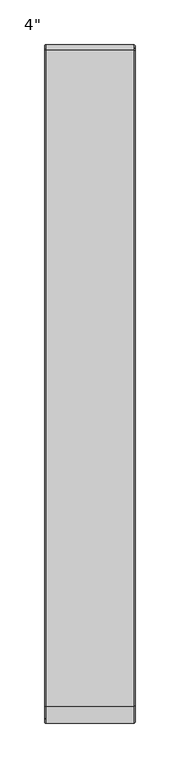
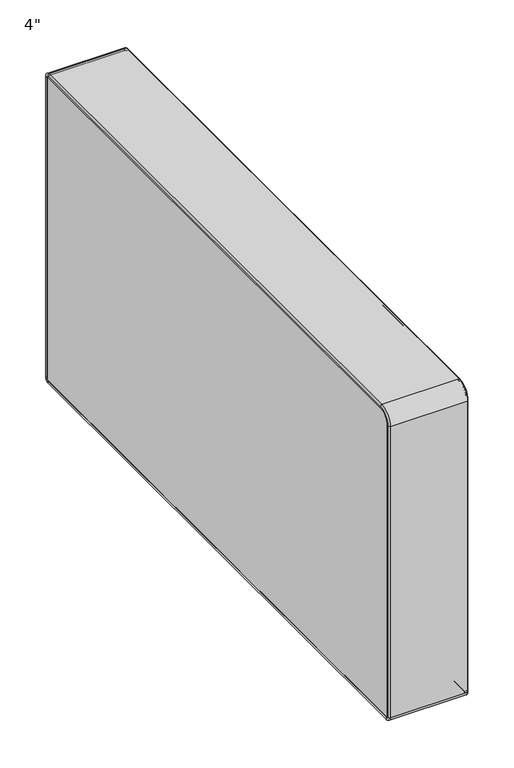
"""IFC4 building model written with IfcOpenShell, lengths in millimetres: furniture geometry."""

from ifc_helpers import new_model, si_unit, point, frame, origin, place, context, project, spatial, polyline, circle_curve, ellipse_curve, trimmed, source, transform, mapped, element, save
from ifc_brep_helpers import plane_surface, cylinder_surface, revolved_surface, advanced_brep


def furniture_c38c4944(model_context):
    return source(origin(), model_context, "Body", "AdvancedBrep", [
        advanced_brep(
        [(-49.2125, 374.65, 749.3), (-49.2125, 374.65, 746.125), (-49.2125, -361.95, 746.125), (-49.2125, -361.95, 749.3), (49.2125, 374.65, 749.3), (49.2125, -361.95, 749.3), (49.2125, 374.65, 746.125), (49.2125, -361.95, 746.125), (-49.2125, -381.0, 730.25), (-49.2125, -377.825, 730.25), (-49.2125, -377.825, 336.6753315), (-49.2125, -381.0, 336.6753315), (49.2125, -381.0, 730.25), (49.2125, -381.0, 336.6753315), (49.2125, -377.825, 730.25), (49.2125, -377.825, 336.6753315), (-49.2125, -374.65, 330.3253315), (-49.2125, -374.65, 333.5003315), (-49.2125, 374.65, 333.5003315), (-49.2125, 374.65, 330.3253315), (49.2125, -374.65, 330.3253315), (49.2125, 374.65, 330.3253315), (49.2125, -374.65, 333.5003315), (49.2125, 374.65, 333.5003315), (-49.2125, 381.0, 336.6753315), (-49.2125, 377.825, 336.6753315), (-49.2125, 377.825, 742.95), (-49.2125, 381.0, 742.95), (49.2125, 381.0, 336.6753315), (49.2125, 381.0, 742.95), (49.2125, 377.825, 336.6753315), (49.2125, 377.825, 742.95)],
        [
            (0, 1, circle_curve(frame((-49.2125, 374.65, 747.7125), z_axis=(0.0, -1.0, 0.0), x_axis=(0.0, 0.0, -1.0)), 1.5875)),
            (1, 2),
            (2, 3, circle_curve(frame((-49.2125, -361.95, 747.7125), z_axis=(0.0, 1.0, 0.0), x_axis=(0.0, 0.0, -1.0)), 1.5875)),
            (3, 0),
            (4, 0),
            (3, 5),
            (5, 4),
            (6, 4, circle_curve(frame((49.2125, 374.65, 747.7125), z_axis=(0.0, -1.0, 0.0), x_axis=(0.0, 0.0, -1.0)), 1.5875)),
            (5, 7, circle_curve(frame((49.2125, -361.95, 747.7125), z_axis=(0.0, 1.0, 0.0), x_axis=(0.0, 0.0, -1.0)), 1.5875)),
            (7, 6),
            (8, 9, circle_curve(frame((-49.2125, -379.4125, 730.25), z_axis=(0.0, 0.0, -1.0), x_axis=(0.0, 1.0, 0.0)), 1.5875)),
            (9, 10),
            (10, 11, circle_curve(frame((-49.2125, -379.4125, 336.6753315), z_axis=(0.0, 0.0, 1.0), x_axis=(0.0, 1.0, 0.0)), 1.5875)),
            (11, 8),
            (12, 8),
            (11, 13),
            (13, 12),
            (14, 12, circle_curve(frame((49.2125, -379.4125, 730.25), z_axis=(0.0, 0.0, -1.0), x_axis=(0.0, 1.0, 0.0)), 1.5875)),
            (13, 15, circle_curve(frame((49.2125, -379.4125, 336.6753315), z_axis=(0.0, 0.0, 1.0), x_axis=(0.0, 1.0, 0.0)), 1.5875)),
            (15, 14),
            (16, 17, circle_curve(frame((-49.2125, -374.65, 331.9128315), z_axis=(0.0, 1.0, 0.0), x_axis=(0.0, 0.0, 1.0)), 1.5875)),
            (17, 18),
            (18, 19, circle_curve(frame((-49.2125, 374.65, 331.9128315), z_axis=(0.0, -1.0, 0.0), x_axis=(0.0, 0.0, 1.0)), 1.5875)),
            (19, 16),
            (20, 16),
            (19, 21),
            (21, 20),
            (22, 20, circle_curve(frame((49.2125, -374.65, 331.9128315), z_axis=(0.0, 1.0, 0.0), x_axis=(0.0, 0.0, 1.0)), 1.5875)),
            (21, 23, circle_curve(frame((49.2125, 374.65, 331.9128315), z_axis=(0.0, -1.0, 0.0), x_axis=(0.0, 0.0, 1.0)), 1.5875)),
            (23, 22),
            (24, 25, circle_curve(frame((-49.2125, 379.4125, 336.6753315), z_axis=(0.0, 0.0, 1.0), x_axis=(0.0, -1.0, 0.0)), 1.5875)),
            (25, 26),
            (26, 27, circle_curve(frame((-49.2125, 379.4125, 742.95), z_axis=(0.0, 0.0, -1.0), x_axis=(0.0, -1.0, 0.0)), 1.5875)),
            (27, 24),
            (28, 24),
            (27, 29),
            (29, 28),
            (30, 28, circle_curve(frame((49.2125, 379.4125, 336.6753315), z_axis=(0.0, 0.0, 1.0), x_axis=(0.0, -1.0, 0.0)), 1.5875)),
            (29, 31, circle_curve(frame((49.2125, 379.4125, 742.95), z_axis=(0.0, 0.0, -1.0), x_axis=(0.0, -1.0, 0.0)), 1.5875)),
            (31, 30),
            (0, 27, circle_curve(frame((-49.2125, 374.65, 742.95), z_axis=(-1.0, 0.0, 0.0), x_axis=(0.0, 1.0, 0.0)), 6.35)),
            (26, 1, circle_curve(frame((-49.2125, 374.65, 742.95), z_axis=(1.0, 0.0, 0.0), x_axis=(0.0, 1.0, 0.0)), 3.175)),
            (4, 29, circle_curve(frame((49.2125, 374.65, 742.95), z_axis=(-1.0, 0.0, 0.0), x_axis=(0.0, 1.0, 0.0)), 6.35)),
            (6, 31, circle_curve(frame((49.2125, 374.65, 742.95), z_axis=(-1.0, 0.0, 0.0), x_axis=(0.0, 1.0, 0.0)), 3.175)),
            (8, 3, circle_curve(frame((-49.2125, -361.95, 730.25), z_axis=(-1.0, 0.0, 0.0), x_axis=(0.0, 0.0, 1.0)), 19.05)),
            (2, 9, circle_curve(frame((-49.2125, -361.95, 730.25), z_axis=(1.0, 0.0, 0.0), x_axis=(0.0, 0.0, 1.0)), 15.875)),
            (12, 5, circle_curve(frame((49.2125, -361.95, 730.25), z_axis=(-1.0, 0.0, 0.0), x_axis=(0.0, 0.0, 1.0)), 19.05)),
            (14, 7, circle_curve(frame((49.2125, -361.95, 730.25), z_axis=(-1.0, 0.0, 0.0), x_axis=(0.0, 0.0, 1.0)), 15.875)),
            (16, 11, circle_curve(frame((-49.2125, -374.65, 336.6753315), z_axis=(-1.0, 0.0, 0.0), x_axis=(0.0, -1.0, 0.0)), 6.35)),
            (10, 17, circle_curve(frame((-49.2125, -374.65, 336.6753315), z_axis=(1.0, 0.0, 0.0), x_axis=(0.0, -1.0, 0.0)), 3.175)),
            (20, 13, circle_curve(frame((49.2125, -374.65, 336.6753315), z_axis=(-1.0, 0.0, 0.0), x_axis=(0.0, -1.0, 0.0)), 6.35)),
            (22, 15, circle_curve(frame((49.2125, -374.65, 336.6753315), z_axis=(-1.0, 0.0, 0.0), x_axis=(0.0, -1.0, 0.0)), 3.175)),
            (24, 19, circle_curve(frame((-49.2125, 374.65, 336.6753315), z_axis=(-1.0, 0.0, 0.0), x_axis=(0.0, 0.0, -1.0)), 6.35)),
            (18, 25, circle_curve(frame((-49.2125, 374.65, 336.6753315), z_axis=(1.0, 0.0, 0.0), x_axis=(0.0, 0.0, -1.0)), 3.175)),
            (28, 21, circle_curve(frame((49.2125, 374.65, 336.6753315), z_axis=(-1.0, 0.0, 0.0), x_axis=(0.0, 0.0, -1.0)), 6.35)),
            (30, 23, circle_curve(frame((49.2125, 374.65, 336.6753315), z_axis=(-1.0, 0.0, 0.0), x_axis=(0.0, 0.0, -1.0)), 3.175)),
            (2, 7),
            (14, 9),
            (15, 10),
            (22, 17),
            (23, 18),
            (30, 25),
            (31, 26),
            (6, 1),
        ],
        [
            cylinder_surface(frame((-49.2125, 374.65, 747.7125), z_axis=(0.0, 1.0, 0.0), x_axis=(0.0, 0.0, -1.0)), 1.5875),
            plane_surface(frame((-49.2125, 374.65, 749.3), z_axis=(0.0, 0.0, 1.0), x_axis=(0.0, -1.0, 0.0))),
            cylinder_surface(frame((49.2125, 374.65, 747.7125), z_axis=(0.0, 1.0, 0.0), x_axis=(0.0, 0.0, -1.0)), 1.5875),
            cylinder_surface(frame((-49.2125, -379.4125, 730.25), z_axis=(0.0, 0.0, 1.0), x_axis=(0.0, 1.0, 0.0)), 1.5875),
            plane_surface(frame((-49.2125, -381.0, 730.25), z_axis=(0.0, -1.0, 0.0), x_axis=(0.0, 0.0, -1.0))),
            cylinder_surface(frame((49.2125, -379.4125, 730.25), z_axis=(0.0, 0.0, 1.0), x_axis=(0.0, 1.0, 0.0)), 1.5875),
            cylinder_surface(frame((-49.2125, -374.65, 331.9128315), z_axis=(0.0, -1.0, 0.0), x_axis=(0.0, 0.0, 1.0)), 1.5875),
            plane_surface(frame((-49.2125, -374.65, 330.3253315), z_axis=(0.0, 0.0, -1.0), x_axis=(0.0, 1.0, 0.0))),
            cylinder_surface(frame((49.2125, -374.65, 331.9128315), z_axis=(0.0, -1.0, 0.0), x_axis=(0.0, 0.0, 1.0)), 1.5875),
            cylinder_surface(frame((-49.2125, 379.4125, 336.6753315), z_axis=(0.0, 0.0, -1.0), x_axis=(0.0, -1.0, 0.0)), 1.5875),
            plane_surface(frame((-49.2125, 381.0, 336.6753315), z_axis=(0.0, 1.0, 0.0), x_axis=(0.0, 0.0, 1.0))),
            cylinder_surface(frame((49.2125, 379.4125, 336.6753315), z_axis=(0.0, 0.0, -1.0), x_axis=(0.0, -1.0, 0.0)), 1.5875),
            revolved_surface(trimmed(ellipse_curve(frame((-49.2125, 379.4125, 742.95), z_axis=(0.0, 0.0, -1.0), x_axis=(0.0, -1.0, 0.0)), 1.5875, 1.5875), [point((-49.2125, 377.825, 742.95))], [point((-49.2125, 381.0, 742.95))], True, "CARTESIAN"), (0.0, 374.65, 742.95), (1.0, 0.0, 0.0)),
            cylinder_surface(frame((0.0, 374.65, 742.95), z_axis=(1.0, 0.0, 0.0), x_axis=(0.0, 1.0, 0.0)), 6.35),
            revolved_surface(trimmed(ellipse_curve(frame((49.2125, 379.4125, 742.95), z_axis=(0.0, 0.0, -1.0), x_axis=(0.0, -1.0, 0.0)), 1.5875, 1.5875), [point((49.2125, 381.0, 742.95))], [point((49.2125, 377.825, 742.95))], True, "CARTESIAN"), (0.0, 374.65, 742.95), (1.0, 0.0, 0.0)),
            revolved_surface(trimmed(ellipse_curve(frame((-49.2125, -361.95, 747.7125), z_axis=(0.0, 1.0, 0.0), x_axis=(0.0, 0.0, -1.0)), 1.5875, 1.5875), [point((-49.2125, -361.95, 746.125))], [point((-49.2125, -361.95, 749.3))], True, "CARTESIAN"), (0.0, -361.95, 730.25), (1.0, 0.0, 0.0)),
            cylinder_surface(frame((0.0, -361.95, 730.25), z_axis=(1.0, 0.0, 0.0), x_axis=(0.0, 0.0, 1.0)), 19.05),
            revolved_surface(trimmed(ellipse_curve(frame((49.2125, -361.95, 747.7125), z_axis=(0.0, 1.0, 0.0), x_axis=(0.0, 0.0, -1.0)), 1.5875, 1.5875), [point((49.2125, -361.95, 749.3))], [point((49.2125, -361.95, 746.125))], True, "CARTESIAN"), (0.0, -361.95, 730.25), (1.0, 0.0, 0.0)),
            revolved_surface(trimmed(ellipse_curve(frame((-49.2125, -379.4125, 336.6753315), z_axis=(0.0, 0.0, 1.0), x_axis=(0.0, 1.0, 0.0)), 1.5875, 1.5875), [point((-49.2125, -377.825, 336.6753315))], [point((-49.2125, -381.0, 336.6753315))], True, "CARTESIAN"), (0.0, -374.65, 336.6753315), (1.0, 0.0, 0.0)),
            cylinder_surface(frame((0.0, -374.65, 336.6753315), z_axis=(1.0, 0.0, 0.0), x_axis=(0.0, -1.0, 0.0)), 6.35),
            revolved_surface(trimmed(ellipse_curve(frame((49.2125, -379.4125, 336.6753315), z_axis=(0.0, 0.0, 1.0), x_axis=(0.0, 1.0, 0.0)), 1.5875, 1.5875), [point((49.2125, -381.0, 336.6753315))], [point((49.2125, -377.825, 336.6753315))], True, "CARTESIAN"), (0.0, -374.65, 336.6753315), (1.0, 0.0, 0.0)),
            revolved_surface(trimmed(ellipse_curve(frame((-49.2125, 374.65, 331.9128315), z_axis=(0.0, -1.0, 0.0), x_axis=(0.0, 0.0, 1.0)), 1.5875, 1.5875), [point((-49.2125, 374.65, 333.5003315))], [point((-49.2125, 374.65, 330.3253315))], True, "CARTESIAN"), (0.0, 374.65, 336.6753315), (1.0, 0.0, 0.0)),
            cylinder_surface(frame((0.0, 374.65, 336.6753315), z_axis=(1.0, 0.0, 0.0), x_axis=(0.0, 0.0, -1.0)), 6.35),
            revolved_surface(trimmed(ellipse_curve(frame((49.2125, 374.65, 331.9128315), z_axis=(0.0, -1.0, 0.0), x_axis=(0.0, 0.0, 1.0)), 1.5875, 1.5875), [point((49.2125, 374.65, 330.3253315))], [point((49.2125, 374.65, 333.5003315))], True, "CARTESIAN"), (0.0, 374.65, 336.6753315), (1.0, 0.0, 0.0)),
            revolved_surface(polyline([(49.2125, -361.95, 746.125), (-49.2125, -361.95, 746.125)]), (0.0, -361.95, 730.25), (1.0, 0.0, 0.0)),
            plane_surface(frame((49.2125, -377.825, 730.25), z_axis=(0.0, 1.0, 0.0), x_axis=(0.0, 0.0, -1.0))),
            revolved_surface(polyline([(49.2125, -377.825, 336.6753315), (-49.2125, -377.825, 336.6753315)]), (0.0, -374.65, 336.6753315), (1.0, 0.0, 0.0)),
            plane_surface(frame((49.2125, -374.65, 333.5003315), z_axis=(0.0, 0.0, 1.0), x_axis=(0.0, 1.0, 0.0))),
            revolved_surface(polyline([(49.2125, 374.65, 333.5003315), (-49.2125, 374.65, 333.5003315)]), (0.0, 374.65, 336.6753315), (1.0, 0.0, 0.0)),
            plane_surface(frame((49.2125, 377.825, 336.6753315), z_axis=(0.0, -1.0, 0.0), x_axis=(0.0, 0.0, 1.0))),
            revolved_surface(polyline([(49.2125, 377.825, 742.95), (-49.2125, 377.825, 742.95)]), (0.0, 374.65, 742.95), (1.0, 0.0, 0.0)),
            plane_surface(frame((49.2125, 374.65, 746.125), z_axis=(0.0, 0.0, -1.0), x_axis=(0.0, -1.0, 0.0))),
        ],
        [
            (0, [[1, 2, 3, 4]]),
            (1, [[5, -4, 6, 7]]),
            (2, [[8, -7, 9, 10]]),
            (3, [[11, 12, 13, 14]]),
            (4, [[15, -14, 16, 17]]),
            (5, [[18, -17, 19, 20]]),
            (6, [[21, 22, 23, 24]]),
            (7, [[25, -24, 26, 27]]),
            (8, [[28, -27, 29, 30]]),
            (9, [[31, 32, 33, 34]]),
            (10, [[35, -34, 36, 37]]),
            (11, [[38, -37, 39, 40]]),
            (12, [[41, -33, 42, -1]]),
            (13, [[43, -36, -41, -5]]),
            (14, [[44, -39, -43, -8]]),
            (15, [[45, -3, 46, -11]]),
            (16, [[47, -6, -45, -15]]),
            (17, [[48, -9, -47, -18]]),
            (18, [[49, -13, 50, -21]]),
            (19, [[51, -16, -49, -25]]),
            (20, [[52, -19, -51, -28]]),
            (21, [[53, -23, 54, -31]]),
            (22, [[55, -26, -53, -35]]),
            (23, [[56, -29, -55, -38]]),
            (24, [[-46, 57, -48, 58]]),
            (25, [[-58, -20, 59, -12]]),
            (26, [[-50, -59, -52, 60]]),
            (27, [[-60, -30, 61, -22]]),
            (28, [[-54, -61, -56, 62]]),
            (29, [[-62, -40, 63, -32]]),
            (30, [[-42, -63, -44, 64]]),
            (31, [[-64, -10, -57, -2]]),
        ],
    ),
        advanced_brep(
        [(50.8, 374.65, 744.5375), (50.8, -361.95, 744.5375), (50.8, -376.2375, 730.25), (50.8, -376.2375, 336.6753315), (50.8, -374.65, 335.0878315), (50.8, 374.65, 335.0878315), (50.8, 376.2375, 336.6753315), (50.8, 376.2375, 742.95), (-50.8, -361.95, 744.5375), (-50.8, 374.65, 744.5375), (-50.8, 376.2375, 742.95), (-50.8, 376.2375, 336.6753315), (-50.8, 374.65, 335.0878315), (-50.8, -374.65, 335.0878315), (-50.8, -376.2375, 336.6753315), (-50.8, -376.2375, 730.25), (49.2125, 374.65, 746.125), (49.2125, -361.95, 746.125), (-49.2125, 374.65, 746.125), (-49.2125, -361.95, 746.125), (49.2125, -377.825, 730.25), (49.2125, -377.825, 336.6753315), (-49.2125, -377.825, 730.25), (-49.2125, -377.825, 336.6753315), (49.2125, -374.65, 333.5003315), (49.2125, 374.65, 333.5003315), (-49.2125, -374.65, 333.5003315), (-49.2125, 374.65, 333.5003315), (49.2125, 377.825, 336.6753315), (49.2125, 377.825, 742.95), (-49.2125, 377.825, 336.6753315), (-49.2125, 377.825, 742.95)],
        [
            (0, 1),
            (1, 2, circle_curve(frame((50.8, -361.95, 730.25), z_axis=(1.0, 0.0, 0.0), x_axis=(0.0, 0.0, 1.0)), 14.2875)),
            (2, 3),
            (3, 4, circle_curve(frame((50.8, -374.65, 336.6753315), z_axis=(1.0, 0.0, 0.0), x_axis=(0.0, -1.0, 0.0)), 1.5875)),
            (4, 5),
            (5, 6, circle_curve(frame((50.8, 374.65, 336.6753315), z_axis=(1.0, 0.0, 0.0), x_axis=(0.0, 0.0, -1.0)), 1.5875)),
            (6, 7),
            (7, 0, circle_curve(frame((50.8, 374.65, 742.95), z_axis=(1.0, 0.0, 0.0), x_axis=(0.0, 1.0, 0.0)), 1.5875)),
            (8, 9),
            (9, 10, circle_curve(frame((-50.8, 374.65, 742.95), z_axis=(-1.0, 0.0, 0.0), x_axis=(0.0, 1.0, 0.0)), 1.5875)),
            (10, 11),
            (11, 12, circle_curve(frame((-50.8, 374.65, 336.6753315), z_axis=(-1.0, 0.0, 0.0), x_axis=(0.0, 0.0, -1.0)), 1.5875)),
            (12, 13),
            (13, 14, circle_curve(frame((-50.8, -374.65, 336.6753315), z_axis=(-1.0, 0.0, 0.0), x_axis=(0.0, -1.0, 0.0)), 1.5875)),
            (14, 15),
            (15, 8, circle_curve(frame((-50.8, -361.95, 730.25), z_axis=(-1.0, 0.0, 0.0), x_axis=(0.0, 0.0, 1.0)), 14.2875)),
            (0, 16, circle_curve(frame((49.2125, 374.65, 744.5375), z_axis=(0.0, -1.0, 0.0), x_axis=(0.0, 0.0, -1.0)), 1.5875)),
            (16, 17),
            (17, 1, circle_curve(frame((49.2125, -361.95, 744.5375), z_axis=(0.0, 1.0, 0.0), x_axis=(0.0, 0.0, -1.0)), 1.5875)),
            (18, 9, circle_curve(frame((-49.2125, 374.65, 744.5375), z_axis=(0.0, -1.0, 0.0), x_axis=(0.0, 0.0, -1.0)), 1.5875)),
            (8, 19, circle_curve(frame((-49.2125, -361.95, 744.5375), z_axis=(0.0, 1.0, 0.0), x_axis=(0.0, 0.0, -1.0)), 1.5875)),
            (19, 18),
            (2, 20, circle_curve(frame((49.2125, -376.2375, 730.25), z_axis=(0.0, 0.0, -1.0), x_axis=(0.0, 1.0, 0.0)), 1.5875)),
            (20, 21),
            (21, 3, circle_curve(frame((49.2125, -376.2375, 336.6753315), z_axis=(0.0, 0.0, 1.0), x_axis=(0.0, 1.0, 0.0)), 1.5875)),
            (22, 15, circle_curve(frame((-49.2125, -376.2375, 730.25), z_axis=(0.0, 0.0, -1.0), x_axis=(0.0, 1.0, 0.0)), 1.5875)),
            (14, 23, circle_curve(frame((-49.2125, -376.2375, 336.6753315), z_axis=(0.0, 0.0, 1.0), x_axis=(0.0, 1.0, 0.0)), 1.5875)),
            (23, 22),
            (4, 24, circle_curve(frame((49.2125, -374.65, 335.0878315), z_axis=(0.0, 1.0, 0.0), x_axis=(0.0, 0.0, 1.0)), 1.5875)),
            (24, 25),
            (25, 5, circle_curve(frame((49.2125, 374.65, 335.0878315), z_axis=(0.0, -1.0, 0.0), x_axis=(0.0, 0.0, 1.0)), 1.5875)),
            (26, 13, circle_curve(frame((-49.2125, -374.65, 335.0878315), z_axis=(0.0, 1.0, 0.0), x_axis=(0.0, 0.0, 1.0)), 1.5875)),
            (12, 27, circle_curve(frame((-49.2125, 374.65, 335.0878315), z_axis=(0.0, -1.0, 0.0), x_axis=(0.0, 0.0, 1.0)), 1.5875)),
            (27, 26),
            (6, 28, circle_curve(frame((49.2125, 376.2375, 336.6753315), z_axis=(0.0, 0.0, 1.0), x_axis=(0.0, -1.0, 0.0)), 1.5875)),
            (28, 29),
            (29, 7, circle_curve(frame((49.2125, 376.2375, 742.95), z_axis=(0.0, 0.0, -1.0), x_axis=(0.0, -1.0, 0.0)), 1.5875)),
            (30, 11, circle_curve(frame((-49.2125, 376.2375, 336.6753315), z_axis=(0.0, 0.0, 1.0), x_axis=(0.0, -1.0, 0.0)), 1.5875)),
            (10, 31, circle_curve(frame((-49.2125, 376.2375, 742.95), z_axis=(0.0, 0.0, -1.0), x_axis=(0.0, -1.0, 0.0)), 1.5875)),
            (31, 30),
            (29, 16, circle_curve(frame((49.2125, 374.65, 742.95), z_axis=(1.0, 0.0, 0.0), x_axis=(0.0, 1.0, 0.0)), 3.175)),
            (18, 31, circle_curve(frame((-49.2125, 374.65, 742.95), z_axis=(-1.0, 0.0, 0.0), x_axis=(0.0, 1.0, 0.0)), 3.175)),
            (17, 20, circle_curve(frame((49.2125, -361.95, 730.25), z_axis=(1.0, 0.0, 0.0), x_axis=(0.0, 0.0, 1.0)), 15.875)),
            (22, 19, circle_curve(frame((-49.2125, -361.95, 730.25), z_axis=(-1.0, 0.0, 0.0), x_axis=(0.0, 0.0, 1.0)), 15.875)),
            (21, 24, circle_curve(frame((49.2125, -374.65, 336.6753315), z_axis=(1.0, 0.0, 0.0), x_axis=(0.0, -1.0, 0.0)), 3.175)),
            (26, 23, circle_curve(frame((-49.2125, -374.65, 336.6753315), z_axis=(-1.0, 0.0, 0.0), x_axis=(0.0, -1.0, 0.0)), 3.175)),
            (25, 28, circle_curve(frame((49.2125, 374.65, 336.6753315), z_axis=(1.0, 0.0, 0.0), x_axis=(0.0, 0.0, -1.0)), 3.175)),
            (30, 27, circle_curve(frame((-49.2125, 374.65, 336.6753315), z_axis=(-1.0, 0.0, 0.0), x_axis=(0.0, 0.0, -1.0)), 3.175)),
            (17, 19),
            (22, 20),
            (23, 21),
            (26, 24),
            (27, 25),
            (30, 28),
            (31, 29),
            (18, 16),
        ],
        [
            plane_surface(frame((50.8, -348.45625, 730.25), z_axis=(1.0, 0.0, 0.0), x_axis=(0.0, 0.0, 1.0))),
            plane_surface(frame((-50.8, -348.45625, 730.25), z_axis=(-1.0, 0.0, 0.0), x_axis=(0.0, 0.0, -1.0))),
            cylinder_surface(frame((49.2125, 374.65, 744.5375), z_axis=(0.0, 1.0, 0.0), x_axis=(0.0, 0.0, -1.0)), 1.5875),
            cylinder_surface(frame((-49.2125, 374.65, 744.5375), z_axis=(0.0, 1.0, 0.0), x_axis=(0.0, 0.0, -1.0)), 1.5875),
            cylinder_surface(frame((49.2125, -376.2375, 730.25), z_axis=(0.0, 0.0, 1.0), x_axis=(0.0, 1.0, 0.0)), 1.5875),
            cylinder_surface(frame((-49.2125, -376.2375, 730.25), z_axis=(0.0, 0.0, 1.0), x_axis=(0.0, 1.0, 0.0)), 1.5875),
            cylinder_surface(frame((49.2125, -374.65, 335.0878315), z_axis=(0.0, -1.0, 0.0), x_axis=(0.0, 0.0, 1.0)), 1.5875),
            cylinder_surface(frame((-49.2125, -374.65, 335.0878315), z_axis=(0.0, -1.0, 0.0), x_axis=(0.0, 0.0, 1.0)), 1.5875),
            cylinder_surface(frame((49.2125, 376.2375, 336.6753315), z_axis=(0.0, 0.0, -1.0), x_axis=(0.0, -1.0, 0.0)), 1.5875),
            cylinder_surface(frame((-49.2125, 376.2375, 336.6753315), z_axis=(0.0, 0.0, -1.0), x_axis=(0.0, -1.0, 0.0)), 1.5875),
            revolved_surface(trimmed(ellipse_curve(frame((49.2125, 376.2375, 742.95), z_axis=(0.0, 0.0, -1.0), x_axis=(0.0, -1.0, 0.0)), 1.5875, 1.5875), [point((49.2125, 377.825, 742.95))], [point((50.8, 376.2375, 742.95))], True, "CARTESIAN"), (0.0, 374.65, 742.95), (1.0, 0.0, 0.0)),
            revolved_surface(trimmed(ellipse_curve(frame((-49.2125, 376.2375, 742.95), z_axis=(0.0, 0.0, -1.0), x_axis=(0.0, -1.0, 0.0)), 1.5875, 1.5875), [point((-50.8, 376.2375, 742.95))], [point((-49.2125, 377.825, 742.95))], True, "CARTESIAN"), (0.0, 374.65, 742.95), (1.0, 0.0, 0.0)),
            revolved_surface(trimmed(ellipse_curve(frame((49.2125, -361.95, 744.5375), z_axis=(0.0, 1.0, 0.0), x_axis=(0.0, 0.0, -1.0)), 1.5875, 1.5875), [point((49.2125, -361.95, 746.125))], [point((50.8, -361.95, 744.5375))], True, "CARTESIAN"), (0.0, -361.95, 730.25), (1.0, 0.0, 0.0)),
            revolved_surface(trimmed(ellipse_curve(frame((-49.2125, -361.95, 744.5375), z_axis=(0.0, 1.0, 0.0), x_axis=(0.0, 0.0, -1.0)), 1.5875, 1.5875), [point((-50.8, -361.95, 744.5375))], [point((-49.2125, -361.95, 746.125))], True, "CARTESIAN"), (0.0, -361.95, 730.25), (1.0, 0.0, 0.0)),
            revolved_surface(trimmed(ellipse_curve(frame((49.2125, -376.2375, 336.6753315), z_axis=(0.0, 0.0, 1.0), x_axis=(0.0, 1.0, 0.0)), 1.5875, 1.5875), [point((49.2125, -377.825, 336.6753315))], [point((50.8, -376.2375, 336.6753315))], True, "CARTESIAN"), (0.0, -374.65, 336.6753315), (1.0, 0.0, 0.0)),
            revolved_surface(trimmed(ellipse_curve(frame((-49.2125, -376.2375, 336.6753315), z_axis=(0.0, 0.0, 1.0), x_axis=(0.0, 1.0, 0.0)), 1.5875, 1.5875), [point((-50.8, -376.2375, 336.6753315))], [point((-49.2125, -377.825, 336.6753315))], True, "CARTESIAN"), (0.0, -374.65, 336.6753315), (1.0, 0.0, 0.0)),
            revolved_surface(trimmed(ellipse_curve(frame((49.2125, 374.65, 335.0878315), z_axis=(0.0, -1.0, 0.0), x_axis=(0.0, 0.0, 1.0)), 1.5875, 1.5875), [point((49.2125, 374.65, 333.5003315))], [point((50.8, 374.65, 335.0878315))], True, "CARTESIAN"), (0.0, 374.65, 336.6753315), (1.0, 0.0, 0.0)),
            revolved_surface(trimmed(ellipse_curve(frame((-49.2125, 374.65, 335.0878315), z_axis=(0.0, -1.0, 0.0), x_axis=(0.0, 0.0, 1.0)), 1.5875, 1.5875), [point((-50.8, 374.65, 335.0878315))], [point((-49.2125, 374.65, 333.5003315))], True, "CARTESIAN"), (0.0, 374.65, 336.6753315), (1.0, 0.0, 0.0)),
            cylinder_surface(frame((0.0, -361.95, 730.25), z_axis=(1.0, 0.0, 0.0), x_axis=(0.0, 0.0, 1.0)), 15.875),
            plane_surface(frame((-49.2125, -377.825, 730.25), z_axis=(0.0, -1.0, 0.0), x_axis=(0.0, 0.0, -1.0))),
            cylinder_surface(frame((0.0, -374.65, 336.6753315), z_axis=(1.0, 0.0, 0.0), x_axis=(0.0, -1.0, 0.0)), 3.175),
            plane_surface(frame((-49.2125, -374.65, 333.5003315), z_axis=(0.0, 0.0, -1.0), x_axis=(0.0, 1.0, 0.0))),
            cylinder_surface(frame((0.0, 374.65, 336.6753315), z_axis=(1.0, 0.0, 0.0), x_axis=(0.0, 0.0, -1.0)), 3.175),
            plane_surface(frame((-49.2125, 377.825, 336.6753315), z_axis=(0.0, 1.0, 0.0), x_axis=(0.0, 0.0, 1.0))),
            cylinder_surface(frame((0.0, 374.65, 742.95), z_axis=(1.0, 0.0, 0.0), x_axis=(0.0, 1.0, 0.0)), 3.175),
            plane_surface(frame((-49.2125, 374.65, 746.125), z_axis=(0.0, 0.0, 1.0), x_axis=(0.0, -1.0, 0.0))),
        ],
        [
            (0, [[1, 2, 3, 4, 5, 6, 7, 8]]),
            (1, [[9, 10, 11, 12, 13, 14, 15, 16]]),
            (2, [[17, 18, 19, -1]]),
            (3, [[20, -9, 21, 22]]),
            (4, [[23, 24, 25, -3]]),
            (5, [[26, -15, 27, 28]]),
            (6, [[29, 30, 31, -5]]),
            (7, [[32, -13, 33, 34]]),
            (8, [[35, 36, 37, -7]]),
            (9, [[38, -11, 39, 40]]),
            (10, [[-17, -8, -37, 41]]),
            (11, [[-20, 42, -39, -10]]),
            (12, [[-19, 43, -23, -2]]),
            (13, [[-21, -16, -26, 44]]),
            (14, [[-25, 45, -29, -4]]),
            (15, [[-27, -14, -32, 46]]),
            (16, [[-31, 47, -35, -6]]),
            (17, [[-33, -12, -38, 48]]),
            (18, [[-43, 49, -44, 50]]),
            (19, [[-24, -50, -28, 51]]),
            (20, [[-45, -51, -46, 52]]),
            (21, [[-30, -52, -34, 53]]),
            (22, [[-47, -53, -48, 54]]),
            (23, [[-36, -54, -40, 55]]),
            (24, [[-41, -55, -42, 56]]),
            (25, [[-18, -56, -22, -49]]),
        ],
    ),
    ])


if __name__ == "__main__":
    model = new_model("IFC4")
    model_context = context("Model", 3, world=origin())
    ifc_project = project(units=[si_unit("LENGTHUNIT", "METRE", prefix="MILLI")], contexts=[model_context])
    site = spatial("IfcSite", under=ifc_project)
    building = spatial("IfcBuilding", under=site)
    placement = place(None, origin())
    furniture_shape = furniture_c38c4944(model_context)
    element("IfcFurniture", 1, ObjectType="Stylex - Free Address - Arm : 4\"", at=placement, inside=building, context=model_context, shape_type="MappedRepresentation", body=[
        mapped(furniture_shape, transform((0.0, 0.0, 0.0), x_axis=(1.0, 0.0, 0.0), y_axis=(0.0, 1.0, 0.0), z_axis=(0.0, 0.0, 1.0))),
    ])
    save(model, "model.ifc")
